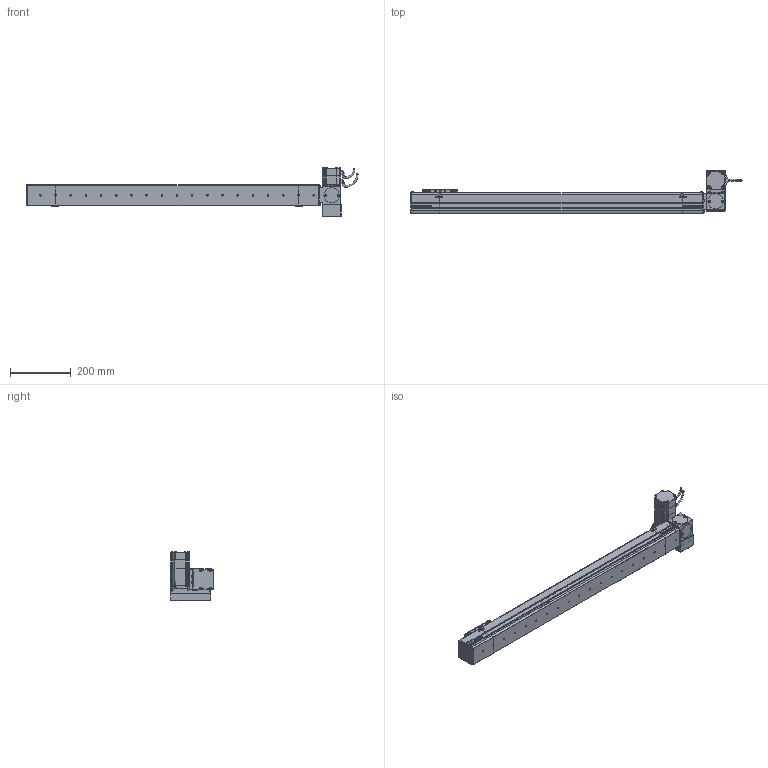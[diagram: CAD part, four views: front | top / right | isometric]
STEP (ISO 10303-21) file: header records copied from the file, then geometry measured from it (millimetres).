
FILE_DESCRIPTION (( 'STEP AP214' ), '1' );
FILE_NAME ('S07 CBN RT S800.STEP', '2010-06-29T10:10:11', ( 'Conseil Régional Haute-Normandie' ), ( 'Conseil Régional Haute-Normandie' ), 'SwSTEP 2.0', 'SolidWorks 2010', '' );
FILE_SCHEMA (( 'AUTOMOTIVE_DESIGN' ));
Length unit declared in the file: millimetre
Products named in the file (31): Head RT_Default; Couvercle RT_Default; Chariot S07_Default; Corp RT_Default; plaque de serrage Tail_Default; Plaque de bout Tail_Default; Couvercle Tail_Default; Plaque de bout RT_Default; Rondelle de Serrage RT_Default; Corp Tail_Default; Tail S07 Tail_Default; plaque de serrage RT_Default; Corp S07 S800_Default; Cache Support Moteur RT_Default; Couvercle S07 S800_Default; Support Moteur RT_Default; VisM3_Default; Conecteur2 60BLDC_Default; Conecteur 60BLDC_Default; 60BLDC90A-640_Default; Axe 60BLDC_Default; P1_Default; vis M5 L15_Default; P4_Default; P3 90A_Default; P2 90A_Default; vis M5 L8_Default; support chariot_Default; chariot_Default; S07 CBN RT S800
Assembly tree (71 placements, depth 4):
  S07 CBN RT S800
    Chariot S07_Default
      vis M5 L8_Default  x8
      support chariot_Default
      chariot_Default
    Head RT_Default
      Plaque de bout RT_Default
      vis M5 L15_Default  x16
      60BLDC90A-640_Default
        VisM3_Default  x12
        Conecteur 60BLDC_Default
        P1_Default
        P4_Default
        P2 90A_Default
        P3 90A_Default
        Conecteur2 60BLDC_Default
        Axe 60BLDC_Default
      Rondelle de Serrage RT_Default  x3
      plaque de serrage RT_Default
      Couvercle RT_Default
      Cache Support Moteur RT_Default
      Support Moteur RT_Default
      Corp RT_Default
    Tail S07 Tail_Default
      vis M5 L15_Default  x6
      Couvercle Tail_Default
      Plaque de bout Tail_Default
      Corp Tail_Default
      plaque de serrage Tail_Default
    Corp S07 S800_Default
      Corp S07 S800_Default
      Couvercle S07 S800_Default
Bounding box: 1093.2 x 141 x 162 mm (x, y, z)
Volume: 5189064.2 mm3; surface area: 676734.5 mm2
Topology: 108 solids, 108 shells, 3898 faces, 9602 edges, 6180 vertices
Faces by surface type: plane 2252, bspline 756, cylinder 679, torus 112, cone 95, sphere 4
Entity records: 153513 total; most frequent: CARTESIAN_POINT 79617, ORIENTED_EDGE 14724, DIRECTION 10995, EDGE_CURVE 7362, VERTEX_POINT 4865, VECTOR 4777, LINE 4777, EDGE_LOOP 3157
